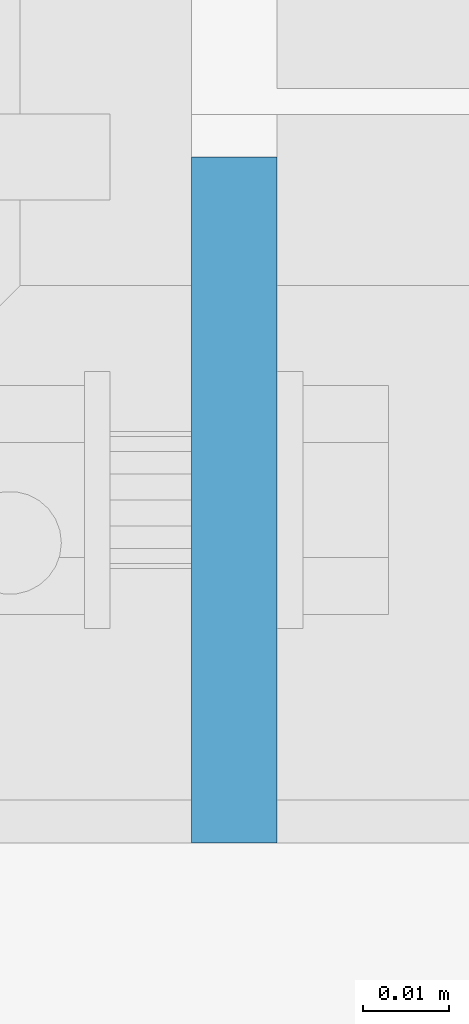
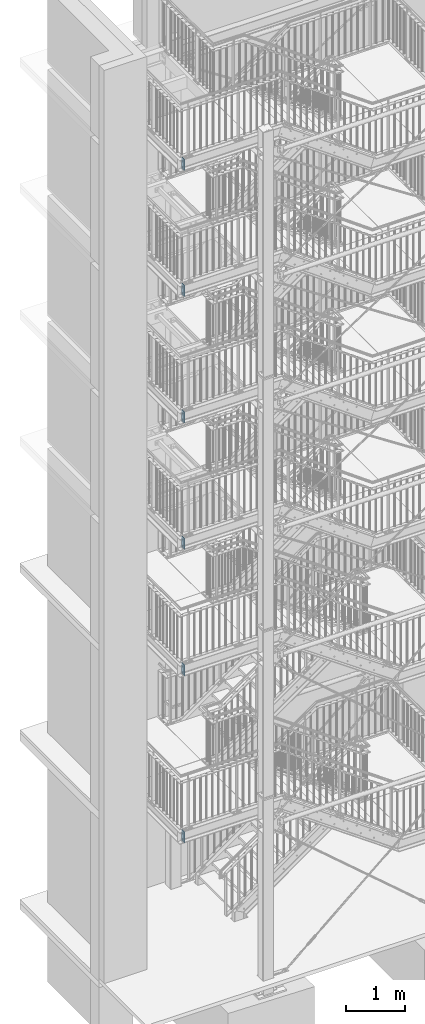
# One storey, part 147 of 821: 6 plates, 24 openings.
"""IFC2X3 building model written with IfcOpenShell, lengths in millimetres."""

from ifc_helpers import new_model, entity, si_unit, converted_unit, frame, frame_2d, origin, origin_with_axes, origin_2d_with_axis, place, context, project, spatial, polyline, circle, outline, extrude, material, layer, layer_set, element, save


model = new_model("IFC2X3")

# Units and contexts
model_context = context("Model", 3, precision=1e-09, world=origin_with_axes())
ifc_project = project(units=[si_unit("LENGTHUNIT", "METRE", prefix="MILLI"), si_unit("AREAUNIT", "SQUARE_METRE"), si_unit("VOLUMEUNIT", "CUBIC_METRE"), converted_unit("PLANEANGLEUNIT", "DEGREE", entity("IfcPlaneAngleMeasure", 0.01745329), si_unit("PLANEANGLEUNIT", "RADIAN"), dimensions=[0, 0, 0, 0, 0, 0, 0])], contexts=[model_context])

# Site, building, storey
site_placement = place(None, origin_with_axes())
site = spatial("IfcSite", under=ifc_project, at=site_placement, Name="Cnopf'sche Kinderklinik", CompositionType="ELEMENT")
building_placement = place(site_placement, origin_with_axes())
building = spatial("IfcBuilding", under=site, at=building_placement, Name="Struktur 1", CompositionType="ELEMENT")
storey_placement = place(building_placement, origin_with_axes())
storey = spatial("IfcBuildingStorey", under=building, at=storey_placement, Name="Default Storey", CompositionType="ELEMENT", Elevation=0.0)

# Plate, openings
ifc_material = material(Name="S235JR")
ifc_layer = layer(ifc_material, 10.0)
ifc_layer_set = layer_set([ifc_layer], Name="S235JR")
plate_1_placement = place(None, frame((3321.713402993, 4571.736971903, 3842.0), z_axis=(1.0, 0.0, 0.0), x_axis=(0.0, -1.0, 0.0)))
plate_1 = element("IfcPlate", 1, at=plate_1_placement, inside=storey, material=ifc_layer_set, Name="Endplate", ObjectType="Endplate", context=model_context, shape_type="SweptSolid", body=[
    extrude(outline(polyline([(0.0, 0.0), (80.0, 0.0), (80.0, 230.0), (0.0, 230.0), (0.0, 0.0)])), origin_with_axes(), (0.0, 0.0, 1.0), 10.0),
])
opening_1_placement = place(plate_1_placement, frame((17.5, 209.0, -0.5), z_axis=(0.0, 0.0, 1.0), x_axis=(0.0, -1.0, 0.0)))
element("IfcOpeningElement", 2, at=opening_1_placement, cuts=plate_1, ObjectType="Opening", context=model_context, shape_type="SweptSolid", body=[
    extrude(circle(Radius=6.001, at=origin_2d_with_axis()), origin(), (0.0, 0.0, 1.0), 11.0),
])
opening_2_placement = place(plate_1_placement, frame((17.5, 21.0, -0.5), z_axis=(0.0, 0.0, 1.0), x_axis=(0.0, -1.0, 0.0)))
element("IfcOpeningElement", 3, at=opening_2_placement, cuts=plate_1, ObjectType="Opening", context=model_context, shape_type="SweptSolid", body=[
    extrude(circle(Radius=6.001, at=origin_2d_with_axis()), origin(), (0.0, 0.0, 1.0), 11.0),
])
opening_3_placement = place(plate_1_placement, frame((40.0, 115.0, -0.5), z_axis=(0.0, 0.0, 1.0), x_axis=(0.0, -1.0, 0.0)))
element("IfcOpeningElement", 4, at=opening_3_placement, cuts=plate_1, ObjectType="Opening", context=model_context, shape_type="SweptSolid", body=[
    extrude(circle(Radius=9.001, at=frame_2d((60.0, 0.0), x_axis=(1.0, 0.0))), origin(), (0.0, 0.0, 1.0), 11.0),
])
opening_4_placement = place(plate_1_placement, frame((40.0, 115.0, -0.5), z_axis=(0.0, 0.0, 1.0), x_axis=(0.0, -1.0, 0.0)))
element("IfcOpeningElement", 5, at=opening_4_placement, cuts=plate_1, ObjectType="Opening", context=model_context, shape_type="SweptSolid", body=[
    extrude(circle(Radius=9.001, at=frame_2d((-60.0, 0.0), x_axis=(1.0, 0.0))), origin(), (0.0, 0.0, 1.0), 11.0),
])

plate_2_placement = place(None, frame((3321.713402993, 4571.736971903, 7315.0), z_axis=(1.0, 0.0, 0.0), x_axis=(0.0, -1.0, 0.0)))
plate_2 = element("IfcPlate", 6, at=plate_2_placement, inside=storey, material=ifc_layer_set, Name="Endplate", ObjectType="Endplate", context=model_context, shape_type="SweptSolid", body=[
    extrude(outline(polyline([(0.0, 0.0), (80.0, 0.0), (80.0, 230.0), (0.0, 230.0), (0.0, 0.0)])), origin_with_axes(), (0.0, 0.0, 1.0), 10.0),
])
opening_5_placement = place(plate_2_placement, frame((17.5, 209.0, -0.5), z_axis=(0.0, 0.0, 1.0), x_axis=(0.0, -1.0, 0.0)))
element("IfcOpeningElement", 7, at=opening_5_placement, cuts=plate_2, ObjectType="Opening", context=model_context, shape_type="SweptSolid", body=[
    extrude(circle(Radius=6.001, at=origin_2d_with_axis()), origin(), (0.0, 0.0, 1.0), 11.0),
])
opening_6_placement = place(plate_2_placement, frame((17.5, 21.0, -0.5), z_axis=(0.0, 0.0, 1.0), x_axis=(0.0, -1.0, 0.0)))
element("IfcOpeningElement", 8, at=opening_6_placement, cuts=plate_2, ObjectType="Opening", context=model_context, shape_type="SweptSolid", body=[
    extrude(circle(Radius=6.001, at=origin_2d_with_axis()), origin(), (0.0, 0.0, 1.0), 11.0),
])
opening_7_placement = place(plate_2_placement, frame((40.0, 115.0, -0.5), z_axis=(0.0, 0.0, 1.0), x_axis=(0.0, -1.0, 0.0)))
element("IfcOpeningElement", 9, at=opening_7_placement, cuts=plate_2, ObjectType="Opening", context=model_context, shape_type="SweptSolid", body=[
    extrude(circle(Radius=9.001, at=frame_2d((60.0, 0.0), x_axis=(1.0, 0.0))), origin(), (0.0, 0.0, 1.0), 11.0),
])
opening_8_placement = place(plate_2_placement, frame((40.0, 115.0, -0.5), z_axis=(0.0, 0.0, 1.0), x_axis=(0.0, -1.0, 0.0)))
element("IfcOpeningElement", 10, at=opening_8_placement, cuts=plate_2, ObjectType="Opening", context=model_context, shape_type="SweptSolid", body=[
    extrude(circle(Radius=9.001, at=frame_2d((-60.0, 0.0), x_axis=(1.0, 0.0))), origin(), (0.0, 0.0, 1.0), 11.0),
])

plate_3_placement = place(None, frame((3321.713402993, 4571.736971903, 9947.0), z_axis=(1.0, 0.0, 0.0), x_axis=(0.0, -1.0, 0.0)))
plate_3 = element("IfcPlate", 11, at=plate_3_placement, inside=storey, material=ifc_layer_set, Name="Endplate", ObjectType="Endplate", context=model_context, shape_type="SweptSolid", body=[
    extrude(outline(polyline([(0.0, 0.0), (80.0, 0.0), (80.0, 230.0), (0.0, 230.0), (0.0, 0.0)])), origin_with_axes(), (0.0, 0.0, 1.0), 10.0),
])
opening_9_placement = place(plate_3_placement, frame((17.5, 209.0, -0.5), z_axis=(0.0, 0.0, 1.0), x_axis=(0.0, -1.0, 0.0)))
element("IfcOpeningElement", 12, at=opening_9_placement, cuts=plate_3, ObjectType="Opening", context=model_context, shape_type="SweptSolid", body=[
    extrude(circle(Radius=6.001, at=origin_2d_with_axis()), origin(), (0.0, 0.0, 1.0), 11.0),
])
opening_10_placement = place(plate_3_placement, frame((17.5, 21.0, -0.5), z_axis=(0.0, 0.0, 1.0), x_axis=(0.0, -1.0, 0.0)))
element("IfcOpeningElement", 13, at=opening_10_placement, cuts=plate_3, ObjectType="Opening", context=model_context, shape_type="SweptSolid", body=[
    extrude(circle(Radius=6.001, at=origin_2d_with_axis()), origin(), (0.0, 0.0, 1.0), 11.0),
])
opening_11_placement = place(plate_3_placement, frame((40.0, 115.0, -0.5), z_axis=(0.0, 0.0, 1.0), x_axis=(0.0, -1.0, 0.0)))
element("IfcOpeningElement", 14, at=opening_11_placement, cuts=plate_3, ObjectType="Opening", context=model_context, shape_type="SweptSolid", body=[
    extrude(circle(Radius=9.001, at=frame_2d((60.0, 0.0), x_axis=(1.0, 0.0))), origin(), (0.0, 0.0, 1.0), 11.0),
])
opening_12_placement = place(plate_3_placement, frame((40.0, 115.0, -0.5), z_axis=(0.0, 0.0, 1.0), x_axis=(0.0, -1.0, 0.0)))
element("IfcOpeningElement", 15, at=opening_12_placement, cuts=plate_3, ObjectType="Opening", context=model_context, shape_type="SweptSolid", body=[
    extrude(circle(Radius=9.001, at=frame_2d((-60.0, 0.0), x_axis=(1.0, 0.0))), origin(), (0.0, 0.0, 1.0), 11.0),
])

plate_4_placement = place(None, frame((3321.713402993, 4571.736971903, 12574.0), z_axis=(1.0, 0.0, 0.0), x_axis=(0.0, -1.0, 0.0)))
plate_4 = element("IfcPlate", 16, at=plate_4_placement, inside=storey, material=ifc_layer_set, Name="Endplate", ObjectType="Endplate", context=model_context, shape_type="SweptSolid", body=[
    extrude(outline(polyline([(0.0, 0.0), (80.0, 0.0), (80.0, 230.0), (0.0, 230.0), (0.0, 0.0)])), origin_with_axes(), (0.0, 0.0, 1.0), 10.0),
])
opening_13_placement = place(plate_4_placement, frame((17.5, 209.0, -0.5), z_axis=(0.0, 0.0, 1.0), x_axis=(0.0, -1.0, 0.0)))
element("IfcOpeningElement", 17, at=opening_13_placement, cuts=plate_4, ObjectType="Opening", context=model_context, shape_type="SweptSolid", body=[
    extrude(circle(Radius=6.001, at=origin_2d_with_axis()), origin(), (0.0, 0.0, 1.0), 11.0),
])
opening_14_placement = place(plate_4_placement, frame((17.5, 21.0, -0.5), z_axis=(0.0, 0.0, 1.0), x_axis=(0.0, -1.0, 0.0)))
element("IfcOpeningElement", 18, at=opening_14_placement, cuts=plate_4, ObjectType="Opening", context=model_context, shape_type="SweptSolid", body=[
    extrude(circle(Radius=6.001, at=origin_2d_with_axis()), origin(), (0.0, 0.0, 1.0), 11.0),
])
opening_15_placement = place(plate_4_placement, frame((40.0, 115.0, -0.5), z_axis=(0.0, 0.0, 1.0), x_axis=(0.0, -1.0, 0.0)))
element("IfcOpeningElement", 19, at=opening_15_placement, cuts=plate_4, ObjectType="Opening", context=model_context, shape_type="SweptSolid", body=[
    extrude(circle(Radius=9.001, at=frame_2d((60.0, 0.0), x_axis=(1.0, 0.0))), origin(), (0.0, 0.0, 1.0), 11.0),
])
opening_16_placement = place(plate_4_placement, frame((40.0, 115.0, -0.5), z_axis=(0.0, 0.0, 1.0), x_axis=(0.0, -1.0, 0.0)))
element("IfcOpeningElement", 20, at=opening_16_placement, cuts=plate_4, ObjectType="Opening", context=model_context, shape_type="SweptSolid", body=[
    extrude(circle(Radius=9.001, at=frame_2d((-60.0, 0.0), x_axis=(1.0, 0.0))), origin(), (0.0, 0.0, 1.0), 11.0),
])

plate_5_placement = place(None, frame((3321.713402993, 4571.736971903, 15209.0), z_axis=(1.0, 0.0, 0.0), x_axis=(0.0, -1.0, 0.0)))
plate_5 = element("IfcPlate", 21, at=plate_5_placement, inside=storey, material=ifc_layer_set, Name="Endplate", ObjectType="Endplate", context=model_context, shape_type="SweptSolid", body=[
    extrude(outline(polyline([(0.0, 0.0), (80.0, 0.0), (80.0, 230.0), (0.0, 230.0), (0.0, 0.0)])), origin_with_axes(), (0.0, 0.0, 1.0), 10.0),
])
opening_17_placement = place(plate_5_placement, frame((17.5, 209.0, -0.5), z_axis=(0.0, 0.0, 1.0), x_axis=(0.0, -1.0, 0.0)))
element("IfcOpeningElement", 22, at=opening_17_placement, cuts=plate_5, ObjectType="Opening", context=model_context, shape_type="SweptSolid", body=[
    extrude(circle(Radius=6.001, at=origin_2d_with_axis()), origin(), (0.0, 0.0, 1.0), 11.0),
])
opening_18_placement = place(plate_5_placement, frame((17.5, 21.0, -0.5), z_axis=(0.0, 0.0, 1.0), x_axis=(0.0, -1.0, 0.0)))
element("IfcOpeningElement", 23, at=opening_18_placement, cuts=plate_5, ObjectType="Opening", context=model_context, shape_type="SweptSolid", body=[
    extrude(circle(Radius=6.001, at=origin_2d_with_axis()), origin(), (0.0, 0.0, 1.0), 11.0),
])
opening_19_placement = place(plate_5_placement, frame((40.0, 115.0, -0.5), z_axis=(0.0, 0.0, 1.0), x_axis=(0.0, -1.0, 0.0)))
element("IfcOpeningElement", 24, at=opening_19_placement, cuts=plate_5, ObjectType="Opening", context=model_context, shape_type="SweptSolid", body=[
    extrude(circle(Radius=9.001, at=frame_2d((60.0, 0.0), x_axis=(1.0, 0.0))), origin(), (0.0, 0.0, 1.0), 11.0),
])
opening_20_placement = place(plate_5_placement, frame((40.0, 115.0, -0.5), z_axis=(0.0, 0.0, 1.0), x_axis=(0.0, -1.0, 0.0)))
element("IfcOpeningElement", 25, at=opening_20_placement, cuts=plate_5, ObjectType="Opening", context=model_context, shape_type="SweptSolid", body=[
    extrude(circle(Radius=9.001, at=frame_2d((-60.0, 0.0), x_axis=(1.0, 0.0))), origin(), (0.0, 0.0, 1.0), 11.0),
])

plate_6_placement = place(None, frame((3321.713402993, 4571.736971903, 17828.999999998), z_axis=(1.0, 0.0, 0.0), x_axis=(0.0, -1.0, 0.0)))
plate_6 = element("IfcPlate", 26, at=plate_6_placement, inside=storey, material=ifc_layer_set, Name="Endplate", ObjectType="Endplate", context=model_context, shape_type="SweptSolid", body=[
    extrude(outline(polyline([(0.0, 0.0), (80.0, 0.0), (80.0, 230.0), (0.0, 230.0), (0.0, 0.0)])), origin_with_axes(), (0.0, 0.0, 1.0), 10.0),
])
opening_21_placement = place(plate_6_placement, frame((17.5, 209.0, -0.5), z_axis=(0.0, 0.0, 1.0), x_axis=(0.0, -1.0, 0.0)))
element("IfcOpeningElement", 27, at=opening_21_placement, cuts=plate_6, ObjectType="Opening", context=model_context, shape_type="SweptSolid", body=[
    extrude(circle(Radius=6.001, at=origin_2d_with_axis()), origin(), (0.0, 0.0, 1.0), 11.0),
])
opening_22_placement = place(plate_6_placement, frame((17.5, 21.0, -0.5), z_axis=(0.0, 0.0, 1.0), x_axis=(0.0, -1.0, 0.0)))
element("IfcOpeningElement", 28, at=opening_22_placement, cuts=plate_6, ObjectType="Opening", context=model_context, shape_type="SweptSolid", body=[
    extrude(circle(Radius=6.001, at=origin_2d_with_axis()), origin(), (0.0, 0.0, 1.0), 11.0),
])
opening_23_placement = place(plate_6_placement, frame((40.0, 115.0, -0.5), z_axis=(0.0, 0.0, 1.0), x_axis=(0.0, -1.0, 0.0)))
element("IfcOpeningElement", 29, at=opening_23_placement, cuts=plate_6, ObjectType="Opening", context=model_context, shape_type="SweptSolid", body=[
    extrude(circle(Radius=9.001, at=frame_2d((60.0, 0.0), x_axis=(1.0, 0.0))), origin(), (0.0, 0.0, 1.0), 11.0),
])
opening_24_placement = place(plate_6_placement, frame((40.0, 115.0, -0.5), z_axis=(0.0, 0.0, 1.0), x_axis=(0.0, -1.0, 0.0)))
element("IfcOpeningElement", 30, at=opening_24_placement, cuts=plate_6, ObjectType="Opening", context=model_context, shape_type="SweptSolid", body=[
    extrude(circle(Radius=9.001, at=frame_2d((-60.0, 0.0), x_axis=(1.0, 0.0))), origin(), (0.0, 0.0, 1.0), 11.0),
])

save(model, "model.ifc")
